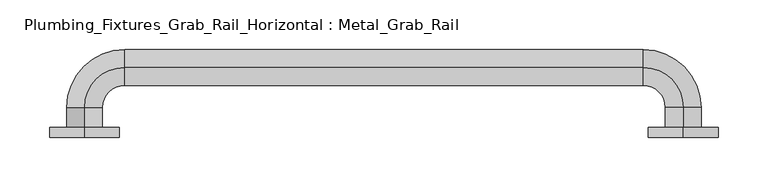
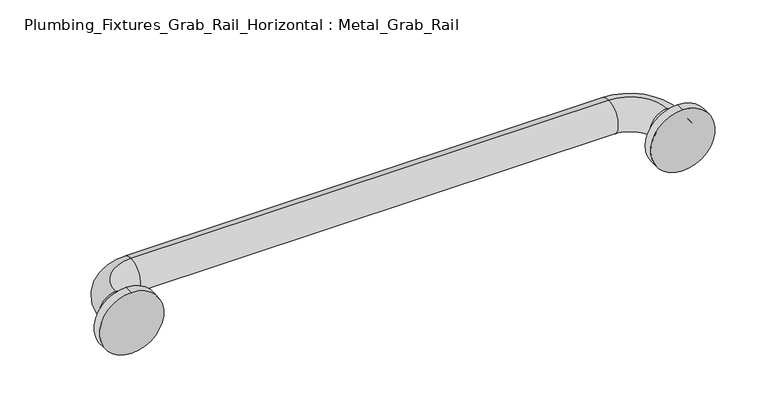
"""IFC4 building model written with IfcOpenShell, lengths in millimetres: flow terminal geometry, Plumbing_Fixtures_Grab_Rail_Horizontal : Metal_Grab_Rail."""

from ifc_helpers import new_model, si_unit, point, frame, frame_2d, origin, place, context, project, spatial, circle_curve, ellipse_curve, trimmed, segment, composite_curve, outline, extrude, source, transform, mapped, element, save
from ifc_brep_helpers import plane_surface, cylinder_surface, revolved_surface, advanced_brep


def plumbing_fixtures_grab_rail_horizontal_metal_grab_rail_f73a8c0c(model_context):
    return source(origin(), model_context, "Body", "SolidModel", [
        extrude(outline(composite_curve([segment(trimmed(circle_curve(frame_2d((680.0, -555.7956665)), 35.0), [point((645.0, -555.7956665))], [point((715.0, -555.7956665))], False, "CARTESIAN"), True, "CONTINUOUS"), segment(trimmed(circle_curve(frame_2d((680.0, -555.7956665)), 35.0), [point((715.0, -555.7956665))], [point((645.0, -555.7956665))], False, "CARTESIAN"), True, "CONTINUOUS")], self_intersect=False)), frame((0.0, 0.0, 0.0), z_axis=(0.0, 1.0, 0.0), x_axis=(0.0, 0.0, 1.0)), (0.0, 0.0, 1.0), 10.0),
        extrude(outline(composite_curve([segment(trimmed(circle_curve(frame_2d((680.0, -1155.7956665)), 35.0), [point((645.0, -1155.7956665))], [point((715.0, -1155.7956665))], False, "CARTESIAN"), True, "CONTINUOUS"), segment(trimmed(circle_curve(frame_2d((680.0, -1155.7956665)), 35.0), [point((715.0, -1155.7956665))], [point((645.0, -1155.7956665))], False, "CARTESIAN"), True, "CONTINUOUS")], self_intersect=False)), frame((0.0, 0.0, 0.0), z_axis=(0.0, 1.0, 0.0), x_axis=(0.0, 0.0, 1.0)), (0.0, 0.0, 1.0), 10.0),
        advanced_brep(
        [(-555.7956665, 10.0, 698.0), (-555.7956665, 10.0, 662.0), (-555.7956665, 30.0, 698.0), (-555.7956665, 30.0, 662.0), (-595.7956665, 70.0, 662.0), (-595.7956665, 70.0, 698.0), (-1115.7956665, 70.0, 698.0), (-1115.7956665, 70.0, 662.0), (-1155.7956665, 30.0, 662.0), (-1155.7956665, 30.0, 698.0), (-1155.7956665, 10.0, 698.0), (-1155.7956665, 10.0, 662.0)],
        [
            (0, 1, circle_curve(frame((-555.7956665, 10.0, 680.0), z_axis=(0.0, -1.0, 0.0), x_axis=(0.0, 0.0, -1.0)), 18.0)),
            (1, 0, circle_curve(frame((-555.7956665, 10.0, 680.0), z_axis=(0.0, -1.0, 0.0), x_axis=(0.0, 0.0, -1.0)), 18.0)),
            (0, 2),
            (2, 3, circle_curve(frame((-555.7956665, 30.0, 680.0), z_axis=(0.0, -1.0, 0.0), x_axis=(0.0, 0.0, -1.0)), 18.0)),
            (3, 1),
            (3, 2, circle_curve(frame((-555.7956665, 30.0, 680.0), z_axis=(0.0, -1.0, 0.0), x_axis=(0.0, 0.0, -1.0)), 18.0)),
            (4, 3, circle_curve(frame((-595.7956665, 30.0, 662.0), z_axis=(0.0, 0.0, -1.0), x_axis=(1.0, 0.0, 0.0)), 40.0)),
            (2, 5, circle_curve(frame((-595.7956665, 30.0, 698.0), z_axis=(0.0, 0.0, 1.0), x_axis=(1.0, 0.0, 0.0)), 40.0)),
            (5, 4, circle_curve(frame((-595.7956665, 70.0, 680.0), z_axis=(1.0, 0.0, 0.0), x_axis=(0.0, 0.0, -1.0)), 18.0)),
            (4, 5, circle_curve(frame((-595.7956665, 70.0, 680.0), z_axis=(1.0, 0.0, 0.0), x_axis=(0.0, 0.0, -1.0)), 18.0)),
            (5, 6),
            (6, 7, circle_curve(frame((-1115.7956665, 70.0, 680.0), z_axis=(1.0, 0.0, 0.0), x_axis=(0.0, 0.0, -1.0)), 18.0)),
            (7, 4),
            (7, 6, circle_curve(frame((-1115.7956665, 70.0, 680.0), z_axis=(1.0, 0.0, 0.0), x_axis=(0.0, 0.0, -1.0)), 18.0)),
            (8, 7, circle_curve(frame((-1115.7956665, 30.0, 662.0), z_axis=(0.0, 0.0, -1.0), x_axis=(0.0, 1.0, 0.0)), 40.0)),
            (6, 9, circle_curve(frame((-1115.7956665, 30.0, 698.0), z_axis=(0.0, 0.0, 1.0), x_axis=(0.0, 1.0, 0.0)), 40.0)),
            (9, 8, circle_curve(frame((-1155.7956665, 30.0, 680.0), z_axis=(0.0, 1.0, 0.0), x_axis=(0.0, 0.0, -1.0)), 18.0)),
            (8, 9, circle_curve(frame((-1155.7956665, 30.0, 680.0), z_axis=(0.0, 1.0, 0.0), x_axis=(0.0, 0.0, -1.0)), 18.0)),
            (10, 11, circle_curve(frame((-1155.7956665, 10.0, 680.0), z_axis=(0.0, -1.0, 0.0), x_axis=(0.0, 0.0, -1.0)), 18.0)),
            (11, 10, circle_curve(frame((-1155.7956665, 10.0, 680.0), z_axis=(0.0, -1.0, 0.0), x_axis=(0.0, 0.0, -1.0)), 18.0)),
            (9, 10),
            (11, 8),
        ],
        [
            plane_surface(frame((-555.7956665, 10.0, 680.0), z_axis=(0.0, -1.0, 0.0), x_axis=(0.0, 0.0, 1.0))),
            cylinder_surface(frame((-555.7956665, 10.0, 680.0), z_axis=(0.0, -1.0, 0.0), x_axis=(0.0, 0.0, -1.0)), 18.0),
            revolved_surface(trimmed(ellipse_curve(frame((-555.7956665, 30.0, 680.0), z_axis=(0.0, -1.0, 0.0), x_axis=(0.0, 0.0, -1.0)), 18.0, 18.0), [point((-555.7956665, 30.0, 698.0))], [point((-555.7956665, 30.0, 662.0))], True, "CARTESIAN"), (-595.7956665, 30.0, 680.0), (0.0, 0.0, 1.0)),
            revolved_surface(trimmed(ellipse_curve(frame((-555.7956665, 30.0, 680.0), z_axis=(0.0, -1.0, 0.0), x_axis=(0.0, 0.0, -1.0)), 18.0, 18.0), [point((-555.7956665, 30.0, 662.0))], [point((-555.7956665, 30.0, 698.0))], True, "CARTESIAN"), (-595.7956665, 30.0, 680.0), (0.0, 0.0, 1.0)),
            cylinder_surface(frame((-595.7956665, 70.0, 680.0), z_axis=(1.0, 0.0, 0.0), x_axis=(0.0, 0.0, -1.0)), 18.0),
            revolved_surface(trimmed(ellipse_curve(frame((-1115.7956665, 70.0, 680.0), z_axis=(1.0, 0.0, 0.0), x_axis=(0.0, 0.0, -1.0)), 18.0, 18.0), [point((-1115.7956665, 70.0, 698.0))], [point((-1115.7956665, 70.0, 662.0))], True, "CARTESIAN"), (-1115.7956665, 30.0, 680.0), (0.0, 0.0, 1.0)),
            revolved_surface(trimmed(ellipse_curve(frame((-1115.7956665, 70.0, 680.0), z_axis=(1.0, 0.0, 0.0), x_axis=(0.0, 0.0, -1.0)), 18.0, 18.0), [point((-1115.7956665, 70.0, 662.0))], [point((-1115.7956665, 70.0, 698.0))], True, "CARTESIAN"), (-1115.7956665, 30.0, 680.0), (0.0, 0.0, 1.0)),
            plane_surface(frame((-1155.7956665, 10.0, 680.0), z_axis=(0.0, -1.0, 0.0), x_axis=(0.0, 0.0, 1.0))),
            cylinder_surface(frame((-1155.7956665, 30.0, 680.0), z_axis=(0.0, 1.0, 0.0), x_axis=(0.0, 0.0, -1.0)), 18.0),
        ],
        [
            (0, [[1, 2]]),
            (1, [[-1, 3, 4, 5]]),
            (1, [[-2, -5, 6, -3]]),
            (2, [[7, -4, 8, 9]]),
            (3, [[-8, -6, -7, 10]]),
            (4, [[-9, 11, 12, 13]]),
            (4, [[-10, -13, 14, -11]]),
            (5, [[15, -12, 16, 17]]),
            (6, [[-16, -14, -15, 18]]),
            (7, [[19, 20]]),
            (8, [[-17, 21, -20, 22]]),
            (8, [[-18, -22, -19, -21]]),
        ],
    ),
    ])


if __name__ == "__main__":
    model = new_model("IFC4")
    model_context = context("Model", 3, world=origin())
    ifc_project = project(units=[si_unit("LENGTHUNIT", "METRE", prefix="MILLI")], contexts=[model_context])
    site = spatial("IfcSite", under=ifc_project)
    building = spatial("IfcBuilding", under=site)
    placement = place(None, origin())
    plumbing_fixtures_grab_rail_horizontal_metal_grab_rail_shape = plumbing_fixtures_grab_rail_horizontal_metal_grab_rail_f73a8c0c(model_context)
    element("IfcFlowTerminal", 1, ObjectType="Plumbing_Fixtures_Grab_Rail_Horizontal : Metal_Grab_Rail", at=placement, inside=building, context=model_context, shape_type="MappedRepresentation", body=[
        mapped(plumbing_fixtures_grab_rail_horizontal_metal_grab_rail_shape, transform((0.0, 0.0, 0.0), x_axis=(1.0, 0.0, 0.0), y_axis=(0.0, 1.0, 0.0), z_axis=(0.0, 0.0, 1.0))),
    ])
    save(model, "model.ifc")
